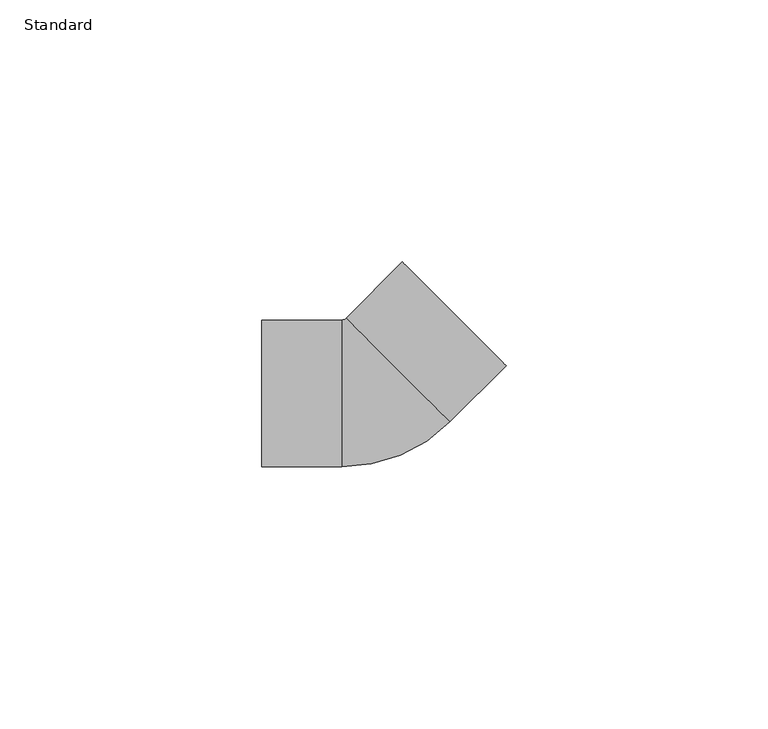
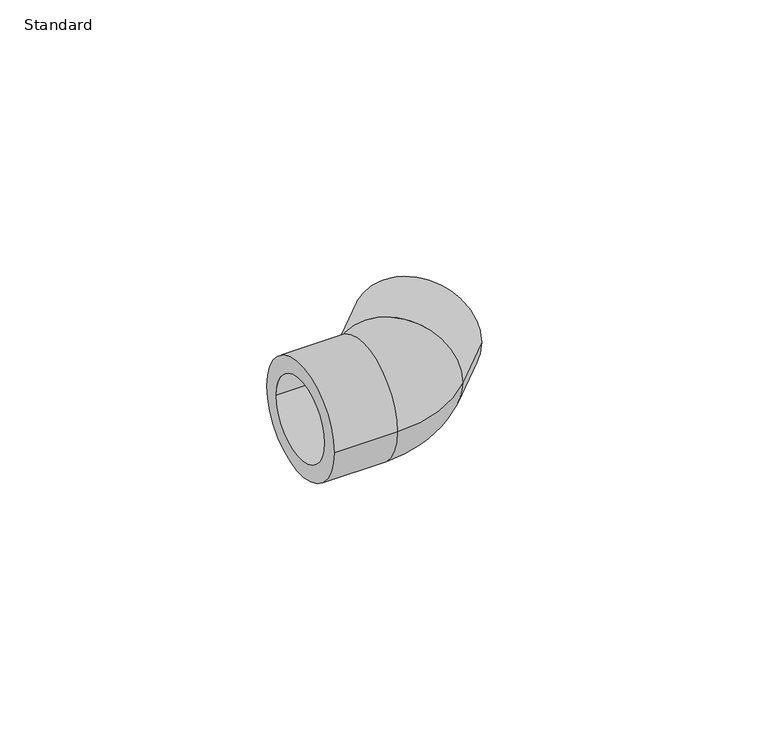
"""IFC4 building model written with IfcOpenShell, lengths in millimetres: pipe fitting geometry, Durapipe_PipeFitting_PVC_Elbow45deg : Standard."""

from ifc_helpers import new_model, si_unit, point, frame, origin, place, context, project, spatial, polyline, circle_curve, ellipse_curve, trimmed, source, transform, mapped, element, save
from ifc_brep_helpers import plane_surface, cylinder_surface, revolved_surface, advanced_brep


def standard_3af9f29b(model_context):
    return source(origin(), model_context, "Body", "AdvancedBrep", [
        advanced_brep(
        [(-21.5, -14.0, 0.0), (-21.5, 14.0, 0.0), (-21.5, -10.0, 0.0), (-21.5, 10.0, 0.0), (-6.2989899, -14.0, 0.0), (-6.2989899, 14.0, 0.0), (14.3535534, -5.4454365, 0.0), (-5.4454365, 14.3535534, 0.0), (25.1022907, 5.3033009, 0.0), (5.3033009, 25.1022907, 0.0), (8.131728, 22.2738636, 0.0), (22.2738636, 8.131728, 0.0), (-5.5, 10.0, 0.0), (-5.5, -10.0, 0.0), (-5.5, 0.0, 0.0), (-3.1819805, 10.9601551, 0.0), (3.8890873, 3.8890873, 0.0), (10.9601551, -3.1819805, 0.0)],
        [
            (0, 1, circle_curve(frame((-21.5, 0.0, 0.0), z_axis=(-1.0, 0.0, 0.0), x_axis=(0.0, 1.0, 0.0)), 14.0)),
            (1, 0, circle_curve(frame((-21.5, 0.0, 0.0), z_axis=(-1.0, 0.0, 0.0), x_axis=(0.0, 1.0, 0.0)), 14.0)),
            (2, 3, circle_curve(frame((-21.5, 0.0, 0.0), z_axis=(1.0, 0.0, 0.0), x_axis=(0.0, -1.0, 0.0)), 10.0)),
            (3, 2, circle_curve(frame((-21.5, 0.0, 0.0), z_axis=(1.0, 0.0, 0.0), x_axis=(0.0, -1.0, 0.0)), 10.0)),
            (0, 4),
            (4, 5, circle_curve(frame((-6.2989899, 0.0, 0.0), z_axis=(-1.0, 0.0, 0.0), x_axis=(0.0, 1.0, 0.0)), 14.0)),
            (5, 1),
            (5, 4, circle_curve(frame((-6.2989899, 0.0, 0.0), z_axis=(-1.0, 0.0, 0.0), x_axis=(0.0, 1.0, 0.0)), 14.0)),
            (4, 6, circle_curve(frame((-6.2989899, 15.2071068, 0.0), z_axis=(0.0, 0.0, 1.0), x_axis=(0.0, -1.0, 0.0)), 29.2071068)),
            (6, 7, circle_curve(frame((4.4540585, 4.4540585, 0.0), z_axis=(-0.7071067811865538, -0.7071067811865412, 0.0), x_axis=(-0.7071067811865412, 0.7071067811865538, 0.0)), 14.0)),
            (7, 5, circle_curve(frame((-6.2989899, 15.2071068, 0.0), z_axis=(0.0, 0.0, -1.0), x_axis=(0.0, -1.0, 0.0)), 1.2071068)),
            (7, 6, circle_curve(frame((4.4540585, 4.4540585, 0.0), z_axis=(-0.7071067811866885, -0.7071067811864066, 0.0), x_axis=(-0.7071067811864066, 0.7071067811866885, 0.0)), 14.0)),
            (8, 9, circle_curve(frame((15.2027958, 15.2027958, 0.0), z_axis=(0.7071067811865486, 0.7071067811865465, 0.0), x_axis=(-0.7071067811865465, 0.7071067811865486, 0.0)), 14.0)),
            (9, 8, circle_curve(frame((15.2027958, 15.2027958, 0.0), z_axis=(0.7071067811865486, 0.7071067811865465, 0.0), x_axis=(-0.7071067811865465, 0.7071067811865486, 0.0)), 14.0)),
            (10, 11, circle_curve(frame((15.2027958, 15.2027958, 0.0), z_axis=(-0.707106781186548, -0.7071067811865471, 0.0), x_axis=(0.707106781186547, -0.7071067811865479, 0.0)), 10.0)),
            (11, 10, circle_curve(frame((15.2027958, 15.2027958, 0.0), z_axis=(-0.707106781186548, -0.7071067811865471, 0.0), x_axis=(0.707106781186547, -0.7071067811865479, 0.0)), 10.0)),
            (6, 8),
            (9, 7),
            (12, 3),
            (2, 13),
            (13, 12, circle_curve(frame((-5.5, 0.0, 0.0), z_axis=(1.0, 0.0, 0.0), x_axis=(0.0, -1.0, 0.0)), 10.0)),
            (12, 13, circle_curve(frame((-5.5, 0.0, 0.0), z_axis=(1.0, 0.0, 0.0), x_axis=(0.0, -1.0, 0.0)), 10.0)),
            (13, 14),
            (14, 12),
            (15, 16),
            (16, 17),
            (17, 15, circle_curve(frame((3.8890873, 3.8890873, 0.0), z_axis=(0.707106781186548, 0.7071067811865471, 0.0), x_axis=(0.707106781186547, -0.7071067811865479, 0.0)), 10.0)),
            (15, 17, circle_curve(frame((3.8890873, 3.8890873, 0.0), z_axis=(0.707106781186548, 0.7071067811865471, 0.0), x_axis=(0.707106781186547, -0.7071067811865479, 0.0)), 10.0)),
            (17, 11),
            (10, 15),
        ],
        [
            plane_surface(frame((-21.5, 0.0, 0.0), z_axis=(-1.0, 0.0, 0.0), x_axis=(0.0, 0.0, 1.0))),
            cylinder_surface(frame((-21.5, 0.0, 0.0), z_axis=(-1.0, 0.0, 0.0), x_axis=(0.0, 1.0, 0.0)), 14.0),
            revolved_surface(trimmed(ellipse_curve(frame((-6.2989899, 0.0, 0.0), z_axis=(-1.0, 0.0, 0.0), x_axis=(0.0, 1.0, 0.0)), 14.0, 14.0), [point((-6.2989899, -14.0, 0.0))], [point((-6.2989899, 14.0, 0.0))], True, "CARTESIAN"), (-6.2989899, 15.2071068, 0.0), (0.0, 0.0, 1.0)),
            revolved_surface(trimmed(ellipse_curve(frame((-6.2989899, 0.0, 0.0), z_axis=(-1.0, 0.0, 0.0), x_axis=(0.0, 1.0, 0.0)), 14.0, 14.0), [point((-6.2989899, 14.0, 0.0))], [point((-6.2989899, -14.0, 0.0))], True, "CARTESIAN"), (-6.2989899, 15.2071068, 0.0), (0.0, 0.0, 1.0)),
            plane_surface(frame((15.2027958, 15.2027958, 0.0), z_axis=(0.7071067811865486, 0.7071067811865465, 0.0), x_axis=(0.0, 0.0, 1.0))),
            cylinder_surface(frame((4.4540585, 4.4540585, 0.0), z_axis=(-0.7071067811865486, -0.7071067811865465, 0.0), x_axis=(-0.7071067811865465, 0.7071067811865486, 0.0)), 14.0),
            revolved_surface(polyline([(-5.5, -10.0, 0.0), (-21.5, -10.0, 0.0)]), (2000.0, 0.0, 0.0), (1.0, 0.0, 0.0)),
            plane_surface(frame((-5.5, 0.0, 0.0), z_axis=(-1.0, 0.0, 0.0), x_axis=(0.0, -1.0, 0.0))),
            plane_surface(frame((3.8890873, 3.8890873, 0.0), z_axis=(0.707106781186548, 0.7071067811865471, 0.0), x_axis=(0.7071067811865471, -0.707106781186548, 0.0))),
            revolved_surface(polyline([(22.27386361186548, 8.131727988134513, 0.0), (10.960155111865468, -3.1819805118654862, 0.0)]), (0.0, 0.0, 0.0), (0.7071067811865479, 0.707106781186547, 0.0)),
        ],
        [
            (0, [[1, 2], [3, 4]]),
            (1, [[-1, 5, 6, 7]]),
            (1, [[-2, -7, 8, -5]]),
            (2, [[-6, 9, 10, 11]]),
            (3, [[-8, -11, 12, -9]]),
            (4, [[13, 14], [15, 16]]),
            (5, [[-10, 17, -14, 18]]),
            (5, [[-12, -18, -13, -17]]),
            (6, [[19, -3, 20, 21]]),
            (6, [[-19, 22, -20, -4]]),
            (7, [[-21, 23, 24]]),
            (7, [[-22, -24, -23]]),
            (8, [[25, 26, 27]]),
            (8, [[-25, 28, -26]]),
            (9, [[-27, 29, -15, 30]]),
            (9, [[-28, -30, -16, -29]]),
        ],
    ),
    ])


if __name__ == "__main__":
    model = new_model("IFC4")
    model_context = context("Model", 3, world=origin())
    ifc_project = project(units=[si_unit("LENGTHUNIT", "METRE", prefix="MILLI")], contexts=[model_context])
    site = spatial("IfcSite", under=ifc_project)
    building = spatial("IfcBuilding", under=site)
    placement = place(None, origin())
    standard_shape = standard_3af9f29b(model_context)
    element("IfcPipeFitting", 1, ObjectType="Durapipe_PipeFitting_PVC_Elbow45deg : Standard", at=placement, inside=building, context=model_context, shape_type="MappedRepresentation", body=[
        mapped(standard_shape, transform((0.0, 0.0, 0.0), x_axis=(1.0, 0.0, 0.0), y_axis=(0.0, 1.0, 0.0), z_axis=(0.0, 0.0, 1.0))),
    ])
    save(model, "model.ifc")
